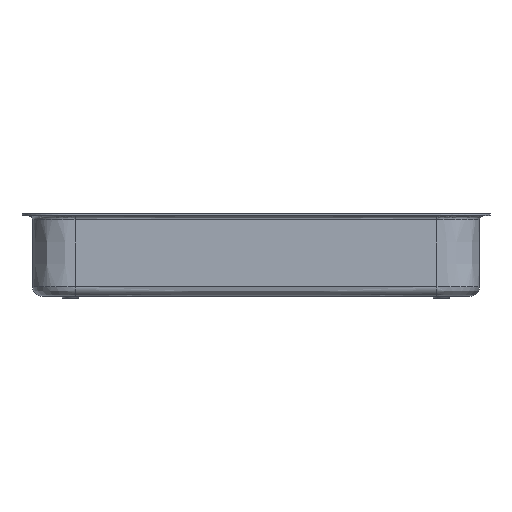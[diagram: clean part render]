
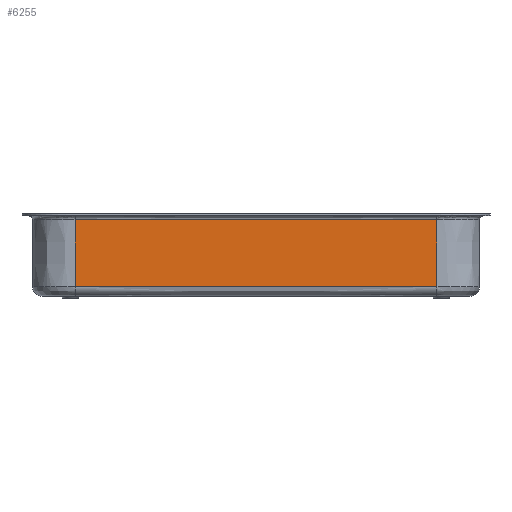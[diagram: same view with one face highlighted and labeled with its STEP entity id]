
A CAD part, left-side view. The second image highlights one B-rep face of the part: STEP entity #6255.
In plain terms, the highlighted free-form (B-spline) face has degree [2, 1] with [3, 2] control points.
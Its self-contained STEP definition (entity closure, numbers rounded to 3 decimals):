
#187=B_SPLINE_SURFACE_WITH_KNOTS('',2,1,((#17472,#17473),(#17474,#17475),
(#17476,#17477)),.UNSPECIFIED.,.F.,.F.,.F.,(3,3),(2,2),(-1.,0.),(0.,5.04),
 .UNSPECIFIED.);
#525=B_SPLINE_CURVE_WITH_KNOTS('',2,(#17478,#17479,#17480),
 .UNSPECIFIED.,.F.,.F.,(3,3),(0.,18.943),.UNSPECIFIED.);
#526=B_SPLINE_CURVE_WITH_KNOTS('',3,(#17481,#17482,#17483,#17484),
 .UNSPECIFIED.,.F.,.F.,(4,4),(0.,18.943),.UNSPECIFIED.);
#953=FACE_OUTER_BOUND('',#1374,.T.);
#1374=EDGE_LOOP('',(#5243,#5244,#5245,#5246));
#1922=LINE('',#17273,#2353);
#1923=LINE('',#17452,#2354);
#2353=VECTOR('',#7530,10.);
#2354=VECTOR('',#7531,10.);
#2911=VERTEX_POINT('',#17216);
#2912=VERTEX_POINT('',#17272);
#2913=VERTEX_POINT('',#17349);
#2914=VERTEX_POINT('',#17408);
#3699=EDGE_CURVE('',#2911,#2912,#1922,.T.);
#3703=EDGE_CURVE('',#2914,#2913,#1923,.T.);
#3708=EDGE_CURVE('',#2911,#2913,#525,.T.);
#3709=EDGE_CURVE('',#2914,#2912,#526,.T.);
#5243=ORIENTED_EDGE('',*,*,#3708,.T.);
#5244=ORIENTED_EDGE('',*,*,#3703,.F.);
#5245=ORIENTED_EDGE('',*,*,#3709,.T.);
#5246=ORIENTED_EDGE('',*,*,#3699,.F.);
#6255=ADVANCED_FACE('',(#953),#187,.T.);
#7530=DIRECTION('',(0.,0.,1.));
#7531=DIRECTION('',(0.,0.,-1.));
#17216=CARTESIAN_POINT('',(-115.053,101.145,-16.015));
#17272=CARTESIAN_POINT('',(-115.053,101.145,18.985));
#17273=CARTESIAN_POINT('',(-115.053,101.145,-16.015));
#17349=CARTESIAN_POINT('',(-115.053,-88.287,-16.015));
#17408=CARTESIAN_POINT('',(-115.053,-88.287,18.985));
#17452=CARTESIAN_POINT('',(-115.053,-88.287,18.985));
#17472=CARTESIAN_POINT('Ctrl Pts',(-115.053,-88.287,
20.985));
#17473=CARTESIAN_POINT('Ctrl Pts',(-115.053,-88.287,
-29.415));
#17474=CARTESIAN_POINT('Ctrl Pts',(-115.053,6.429,20.985));
#17475=CARTESIAN_POINT('Ctrl Pts',(-115.053,6.429,-29.415));
#17476=CARTESIAN_POINT('Ctrl Pts',(-115.053,101.145,20.985));
#17477=CARTESIAN_POINT('Ctrl Pts',(-115.053,101.145,-29.415));
#17478=CARTESIAN_POINT('Ctrl Pts',(-115.053,101.145,-16.015));
#17479=CARTESIAN_POINT('Ctrl Pts',(-115.053,6.429,-16.015));
#17480=CARTESIAN_POINT('Ctrl Pts',(-115.053,-88.287,
-16.015));
#17481=CARTESIAN_POINT('Ctrl Pts',(-115.053,-88.287,
18.985));
#17482=CARTESIAN_POINT('Ctrl Pts',(-115.053,-25.143,
18.985));
#17483=CARTESIAN_POINT('Ctrl Pts',(-115.053,38.001,18.985));
#17484=CARTESIAN_POINT('Ctrl Pts',(-115.053,101.145,18.985));
